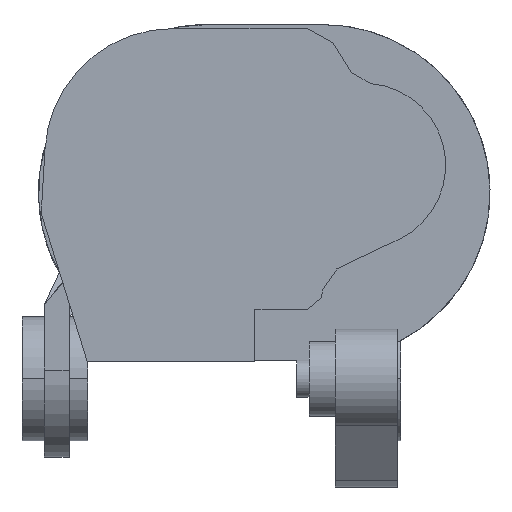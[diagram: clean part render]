
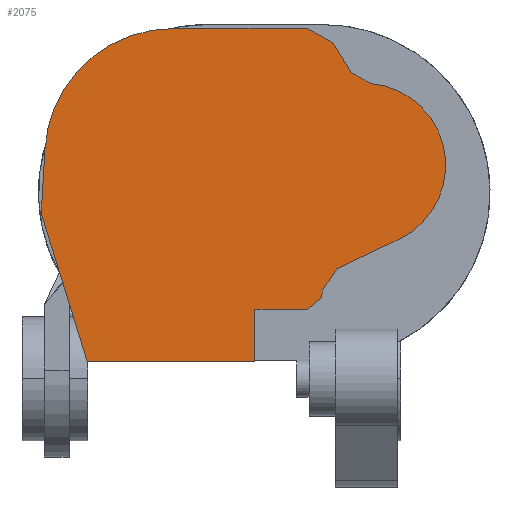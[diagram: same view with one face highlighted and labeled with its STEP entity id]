
A CAD part, left-side view. The second image highlights one B-rep face of the part: STEP entity #2075.
In plain terms, the highlighted planar face has unit normal (-1, 0, 0).
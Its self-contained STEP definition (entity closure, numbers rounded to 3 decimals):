
#24 = CARTESIAN_POINT ( 'NONE',  ( -254., -88.03, 1634.638 ) ) ;
#77 = CARTESIAN_POINT ( 'NONE',  ( -254., -77.048, 1625.8 ) ) ;
#98 = DIRECTION ( 'NONE',  ( 0., -0.779, 0.627 ) ) ;
#124 = VECTOR ( 'NONE', #3858, 1000. ) ;
#161 = CARTESIAN_POINT ( 'NONE',  ( -254., 134., 1754.8 ) ) ;
#196 = VECTOR ( 'NONE', #2642, 1000. ) ;
#307 = DIRECTION ( 'NONE',  ( 0., -1., 0. ) ) ;
#344 = CARTESIAN_POINT ( 'NONE',  ( -254., -122.5, 1625.8 ) ) ;
#357 = VERTEX_POINT ( 'NONE', #5039 ) ;
#477 = VERTEX_POINT ( 'NONE', #4827 ) ;
#502 = AXIS2_PLACEMENT_3D ( 'NONE', #2250, #2062, #1971 ) ;
#600 = DIRECTION ( 'NONE',  ( 0., 0.058, -0.998 ) ) ;
#692 = LINE ( 'NONE', #5686, #5564 ) ;
#823 = LINE ( 'NONE', #3839, #5569 ) ;
#886 = ORIENTED_EDGE ( 'NONE', *, *, #5761, .T. ) ;
#947 = ORIENTED_EDGE ( 'NONE', *, *, #5620, .T. ) ;
#1069 = CARTESIAN_POINT ( 'NONE',  ( -254., -100.885, 1658.349 ) ) ;
#1081 = VERTEX_POINT ( 'NONE', #2495 ) ;
#1129 = AXIS2_PLACEMENT_3D ( 'NONE', #2991, #2098, #1422 ) ;
#1169 = CARTESIAN_POINT ( 'NONE',  ( -254., -88.03, 1634.638 ) ) ;
#1359 = LINE ( 'NONE', #5776, #3762 ) ;
#1366 = ORIENTED_EDGE ( 'NONE', *, *, #2571, .T. ) ;
#1391 = VERTEX_POINT ( 'NONE', #1169 ) ;
#1411 = LINE ( 'NONE', #5321, #3814 ) ;
#1422 = DIRECTION ( 'NONE',  ( 0., 0., -1. ) ) ;
#1505 = LINE ( 'NONE', #24, #3905 ) ;
#1941 = LINE ( 'NONE', #344, #2934 ) ;
#1946 = PLANE ( 'NONE',  #502 ) ;
#1948 = ORIENTED_EDGE ( 'NONE', *, *, #3732, .T. ) ;
#1971 = DIRECTION ( 'NONE',  ( 0., 0., 1. ) ) ;
#2062 = DIRECTION ( 'NONE',  ( -1., 0., 0. ) ) ;
#2075 = ADVANCED_FACE ( 'NONE', ( #2693 ), #1946, .T. ) ;
#2098 = DIRECTION ( 'NONE',  ( -1., 0., 0. ) ) ;
#2189 = CARTESIAN_POINT ( 'NONE',  ( -254., 134., 1754.8 ) ) ;
#2250 = CARTESIAN_POINT ( 'NONE',  ( -254., -122.5, 1741.8 ) ) ;
#2404 = VERTEX_POINT ( 'NONE', #2898 ) ;
#2478 = LINE ( 'NONE', #3908, #124 ) ;
#2489 = ORIENTED_EDGE ( 'NONE', *, *, #5722, .T. ) ;
#2495 = CARTESIAN_POINT ( 'NONE',  ( -254., -35., 1583.8 ) ) ;
#2571 = EDGE_CURVE ( 'NONE', #477, #5166, #1411, .T. ) ;
#2584 = VERTEX_POINT ( 'NONE', #5309 ) ;
#2636 = VECTOR ( 'NONE', #98, 1000. ) ;
#2640 = DIRECTION ( 'NONE',  ( 0., 0.853, 0.522 ) ) ;
#2642 = DIRECTION ( 'NONE',  ( 0., 0.873, 0.488 ) ) ;
#2669 = CARTESIAN_POINT ( 'NONE',  ( -254., -98.003, 1840.085 ) ) ;
#2693 = FACE_OUTER_BOUND ( 'NONE', #3257, .T. ) ;
#2703 = CARTESIAN_POINT ( 'NONE',  ( -254., -127.646, 1807.599 ) ) ;
#2712 = VERTEX_POINT ( 'NONE', #4369 ) ;
#2726 = VERTEX_POINT ( 'NONE', #4350 ) ;
#2898 = CARTESIAN_POINT ( 'NONE',  ( -254., 137., 1703.3 ) ) ;
#2934 = VECTOR ( 'NONE', #307, 1000. ) ;
#2942 = LINE ( 'NONE', #2703, #4072 ) ;
#2977 = CARTESIAN_POINT ( 'NONE',  ( -254., -98.003, 1840.085 ) ) ;
#2991 = CARTESIAN_POINT ( 'NONE',  ( -254., -122.5, 1741.8 ) ) ;
#3024 = VECTOR ( 'NONE', #600, 1000. ) ;
#3166 = CARTESIAN_POINT ( 'NONE',  ( -254., -112.172, 1817.057 ) ) ;
#3177 = ORIENTED_EDGE ( 'NONE', *, *, #3699, .T. ) ;
#3257 = EDGE_LOOP ( 'NONE', ( #1948, #3695, #947, #3915, #4911, #4208, #4353, #5636, #3474, #4835, #3177, #2489, #1366, #886, #3624 ) ) ;
#3311 = VECTOR ( 'NONE', #5948, 1000. ) ;
#3474 = ORIENTED_EDGE ( 'NONE', *, *, #3721, .T. ) ;
#3584 = EDGE_CURVE ( 'NONE', #2726, #357, #1941, .T. ) ;
#3615 = LINE ( 'NONE', #5905, #3311 ) ;
#3624 = ORIENTED_EDGE ( 'NONE', *, *, #5608, .T. ) ;
#3659 = EDGE_CURVE ( 'NONE', #357, #1391, #5205, .T. ) ;
#3690 = EDGE_CURVE ( 'NONE', #1391, #5034, #1505, .T. ) ;
#3695 = ORIENTED_EDGE ( 'NONE', *, *, #3926, .T. ) ;
#3699 = EDGE_CURVE ( 'NONE', #5906, #5678, #1359, .T. ) ;
#3721 = EDGE_CURVE ( 'NONE', #2712, #5856, #5065, .T. ) ;
#3732 = EDGE_CURVE ( 'NONE', #2404, #2584, #2478, .T. ) ;
#3762 = VECTOR ( 'NONE', #4388, 1000. ) ;
#3814 = VECTOR ( 'NONE', #5342, 1000. ) ;
#3819 = EDGE_CURVE ( 'NONE', #5034, #4604, #3615, .T. ) ;
#3839 = CARTESIAN_POINT ( 'NONE',  ( -254., -35., 1741.8 ) ) ;
#3858 = DIRECTION ( 'NONE',  ( 0., -0.296, -0.955 ) ) ;
#3889 = EDGE_CURVE ( 'NONE', #4604, #2712, #4419, .T. ) ;
#3905 = VECTOR ( 'NONE', #5843, 1000. ) ;
#3908 = CARTESIAN_POINT ( 'NONE',  ( -254., 137., 1703.3 ) ) ;
#3915 = ORIENTED_EDGE ( 'NONE', *, *, #3584, .T. ) ;
#3926 = EDGE_CURVE ( 'NONE', #2584, #1081, #692, .T. ) ;
#3953 = CARTESIAN_POINT ( 'NONE',  ( -254., -127.646, 1807.599 ) ) ;
#4072 = VECTOR ( 'NONE', #2640, 1000. ) ;
#4144 = LINE ( 'NONE', #2669, #196 ) ;
#4208 = ORIENTED_EDGE ( 'NONE', *, *, #3690, .T. ) ;
#4279 = VERTEX_POINT ( 'NONE', #2189 ) ;
#4350 = CARTESIAN_POINT ( 'NONE',  ( -254., -35., 1625.8 ) ) ;
#4353 = ORIENTED_EDGE ( 'NONE', *, *, #3819, .T. ) ;
#4369 = CARTESIAN_POINT ( 'NONE',  ( -254., -150.931, 1682.237 ) ) ;
#4388 = DIRECTION ( 'NONE',  ( 0., 0.524, 0.852 ) ) ;
#4419 = LINE ( 'NONE', #5872, #5695 ) ;
#4424 = DIRECTION ( 'NONE',  ( 0., 0., 1. ) ) ;
#4533 = DIRECTION ( 'NONE',  ( 0., 0., -1. ) ) ;
#4554 = DIRECTION ( 'NONE',  ( -1., 0., 0. ) ) ;
#4582 = CARTESIAN_POINT ( 'NONE',  ( -254., 31.185, 1748.811 ) ) ;
#4604 = VERTEX_POINT ( 'NONE', #1069 ) ;
#4827 = CARTESIAN_POINT ( 'NONE',  ( -254., -77.038, 1851.8 ) ) ;
#4833 = CIRCLE ( 'NONE', #5364, 102.989 ) ;
#4835 = ORIENTED_EDGE ( 'NONE', *, *, #5463, .T. ) ;
#4911 = ORIENTED_EDGE ( 'NONE', *, *, #3659, .T. ) ;
#5034 = VERTEX_POINT ( 'NONE', #5743 ) ;
#5039 = CARTESIAN_POINT ( 'NONE',  ( -254., -77.048, 1625.8 ) ) ;
#5053 = CARTESIAN_POINT ( 'NONE',  ( -254., 31.185, 1851.8 ) ) ;
#5065 = CIRCLE ( 'NONE', #1129, 66. ) ;
#5166 = VERTEX_POINT ( 'NONE', #5053 ) ;
#5205 = LINE ( 'NONE', #77, #2636 ) ;
#5309 = CARTESIAN_POINT ( 'NONE',  ( -254., 100., 1583.8 ) ) ;
#5321 = CARTESIAN_POINT ( 'NONE',  ( -254., -122.5, 1851.8 ) ) ;
#5342 = DIRECTION ( 'NONE',  ( 0., 1., 0. ) ) ;
#5364 = AXIS2_PLACEMENT_3D ( 'NONE', #4582, #4554, #4533 ) ;
#5463 = EDGE_CURVE ( 'NONE', #5856, #5906, #2942, .T. ) ;
#5564 = VECTOR ( 'NONE', #5629, 1000. ) ;
#5569 = VECTOR ( 'NONE', #4424, 1000. ) ;
#5608 = EDGE_CURVE ( 'NONE', #4279, #2404, #5703, .T. ) ;
#5620 = EDGE_CURVE ( 'NONE', #1081, #2726, #823, .T. ) ;
#5629 = DIRECTION ( 'NONE',  ( 0., -1., 0. ) ) ;
#5636 = ORIENTED_EDGE ( 'NONE', *, *, #3889, .T. ) ;
#5678 = VERTEX_POINT ( 'NONE', #2977 ) ;
#5686 = CARTESIAN_POINT ( 'NONE',  ( -254., -122.5, 1583.8 ) ) ;
#5695 = VECTOR ( 'NONE', #5815, 1000. ) ;
#5703 = LINE ( 'NONE', #161, #3024 ) ;
#5722 = EDGE_CURVE ( 'NONE', #5678, #477, #4144, .T. ) ;
#5743 = CARTESIAN_POINT ( 'NONE',  ( -254., -89.537, 1641.524 ) ) ;
#5761 = EDGE_CURVE ( 'NONE', #5166, #4279, #4833, .T. ) ;
#5776 = CARTESIAN_POINT ( 'NONE',  ( -254., -112.172, 1817.057 ) ) ;
#5815 = DIRECTION ( 'NONE',  ( 0., -0.902, 0.431 ) ) ;
#5843 = DIRECTION ( 'NONE',  ( 0., -0.214, 0.977 ) ) ;
#5856 = VERTEX_POINT ( 'NONE', #3953 ) ;
#5872 = CARTESIAN_POINT ( 'NONE',  ( -254., -100.885, 1658.349 ) ) ;
#5905 = CARTESIAN_POINT ( 'NONE',  ( -254., -89.537, 1641.524 ) ) ;
#5906 = VERTEX_POINT ( 'NONE', #3166 ) ;
#5948 = DIRECTION ( 'NONE',  ( 0., -0.559, 0.829 ) ) ;
